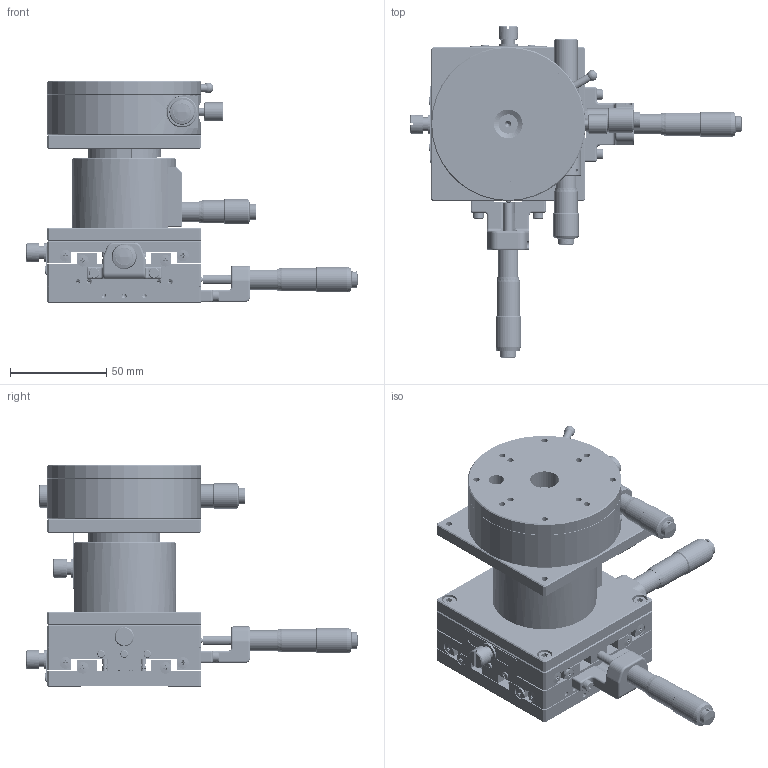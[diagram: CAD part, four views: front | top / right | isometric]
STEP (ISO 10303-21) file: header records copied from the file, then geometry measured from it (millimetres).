
FILE_DESCRIPTION((''),'2;1');
FILE_NAME('\\192.168.131.2\meka\Public\7_3次元データ\1図面ﾃﾞｰﾀ\2_OpticalHard\01_国内製品\1_Stags\TSD\80\TSD-809C\TSD-809C.stp','2009-10-20T09:04:07',('okegawa'),(''),'Autodesk Inventor 2008','Autodesk Inventor 2008','');
FILE_SCHEMA(('AUTOMOTIVE_DESIGN { 1 0 10303 214 1 1 1 1 }'));
Length unit declared in the file: millimetre
Products named in the file (6): TSD-809C-C1-S22; TSD-809C-C1-S15; TSD-809C-C1-S17; TSD-809C-C1-S20; TSD-809C-C1-S21; TSD-809C-C1-S12
Assembly tree (5 placements, depth 2):
  TSD-809C-C1-S22
    TSD-809C-C1-S15
    TSD-809C-C1-S17
    TSD-809C-C1-S20
    TSD-809C-C1-S21
    TSD-809C-C1-S12
Bounding box: 172.37 x 172.37 x 115 mm (x, y, z)
Volume: 478616.2 mm3; surface area: 176634.4 mm2
Topology: 37 solids, 117 shells, 2781 faces, 6584 edges, 4279 vertices
Faces by surface type: plane 1372, cylinder 560, bspline 506, cone 264, torus 41, sphere 38
Full cylindrical faces by diameter (mm): 1 x2, 1.2 x4, 1.567 x6, 1.6 x4, 1.7 x2, 2 x24, 2.4 x6, 2.5 x6, 2.6 x16, 3 x36, 3.242 x2, 3.5 x4, 4 x31, 4.1 x3, 4.3 x2, 4.5 x2, 4.6 x4, 5 x11, 5.5 x12, 6 x22, 6.5 x2, 7 x20, 7.3 x8, 7.5 x4, 8 x6, 8.5 x9, 9 x4, 9.3 x2, 9.5 x3, 9.9 x4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
Entity records: 84542 total; most frequent: CARTESIAN_POINT 26112, DIRECTION 11707, ORIENTED_EDGE 10816, EDGE_CURVE 5408, AXIS2_PLACEMENT_3D 4597, EDGE_LOOP 4156, VERTEX_POINT 3922, FACE_OUTER_BOUND 2779
